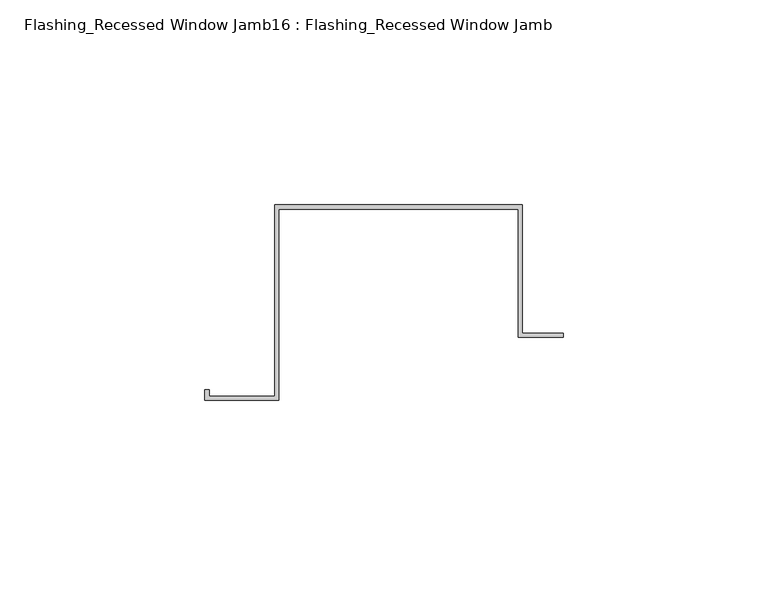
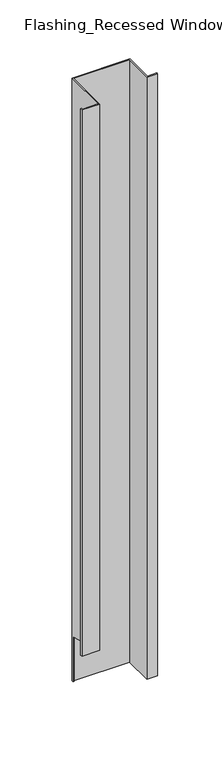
"""IFC4 building model written with IfcOpenShell, lengths in millimetres: proxy geometry, Flashing_Recessed Window Jamb16 : Flashing_Recessed Window Jamb."""

from ifc_helpers import new_model, si_unit, origin, place, context, project, spatial, faceted_brep, source, transform, mapped, element, save


def flashing_recessed_window_jamb16_flashing_recessed_window_d55ca905(model_context):
    return source(origin(), model_context, "Body", "Brep", [
        faceted_brep([(11998.8902201, -20640.9457855, -277.6721404), (11998.8902201, -20609.6136752, -277.6721404), (11938.5223206, -20609.6136752, -277.6721404), (11938.5223206, -20656.2991572, -277.6721404), (11922.4910706, -20656.2991572, -277.6721404), (11922.4910706, -20654.7546787, -277.6721404), (11921.4910706, -20654.7546787, -277.6721404), (11921.4910706, -20657.2991572, -277.6721404), (11939.5223206, -20657.2991572, -277.6721404), (11939.5223206, -20610.6136752, -277.6721404), (11997.8902201, -20610.6136752, -277.6721404), (11997.8902201, -20641.9457855, -277.6721404), (12008.8902201, -20641.9457855, -277.6721404), (12008.8902201, -20640.9457855, -277.6721404), (11997.8902201, -20641.9457855, -938.2016371), (11997.8902201, -20610.6136752, -938.2016371), (11939.5223206, -20610.6136752, -938.2016371), (11939.5223206, -20611.5455269, -938.2016371), (11938.5223206, -20611.5455269, -938.2016371), (11938.5223206, -20609.6136752, -938.2016371), (11998.8902201, -20609.6136752, -938.2016371), (11998.8902201, -20640.9457855, -938.2016371), (12008.8902201, -20640.9457855, -938.2016371), (12008.8902201, -20641.9457855, -938.2016371), (11938.5223206, -20611.5455269, -888.7682442), (11938.5223206, -20656.2991572, -876.7765451), (11922.4910706, -20656.2991572, -876.7765451), (11922.4910706, -20654.7546787, -877.1903869), (11921.4910706, -20654.7546787, -877.1903869), (11921.4910706, -20657.2991572, -876.5085959), (11939.5223206, -20657.2991572, -876.5085959), (11939.5223206, -20611.5455269, -888.7682442)], [[[0, 1, 2, 3, 4, 5, 6, 7, 8, 9, 10, 11, 12, 13]], [[14, 15, 16, 17, 18, 19, 20, 21, 22, 23]], [[1, 0, 21, 20]], [[2, 1, 20, 19]], [[3, 2, 19, 18, 24, 25]], [[4, 3, 25, 26]], [[5, 4, 26, 27]], [[6, 5, 27, 28]], [[7, 6, 28, 29]], [[8, 7, 29, 30]], [[9, 8, 30, 31, 17, 16]], [[10, 9, 16, 15]], [[11, 10, 15, 14]], [[12, 11, 14, 23]], [[13, 12, 23, 22]], [[0, 13, 22, 21]], [[24, 31, 30, 29, 28, 27, 26, 25]], [[31, 24, 18, 17]]]),
    ])


if __name__ == "__main__":
    model = new_model("IFC4")
    model_context = context("Model", 3, world=origin())
    ifc_project = project(units=[si_unit("LENGTHUNIT", "METRE", prefix="MILLI")], contexts=[model_context])
    site = spatial("IfcSite", under=ifc_project)
    building = spatial("IfcBuilding", under=site)
    placement = place(None, origin())
    flashing_recessed_window_jamb16_flashing_recessed_window_shape = flashing_recessed_window_jamb16_flashing_recessed_window_d55ca905(model_context)
    element("IfcBuildingElementProxy", 1, Name="Flashing_Recessed Window Jamb16 : Flashing_Recessed Window Jamb", ObjectType="Flashing_Recessed Window Jamb16 : Flashing_Recessed Window Jamb", at=placement, inside=building, context=model_context, shape_type="MappedRepresentation", body=[
        mapped(flashing_recessed_window_jamb16_flashing_recessed_window_shape, transform((0.0, 0.0, 0.0), x_axis=(1.0, 0.0, 0.0), y_axis=(0.0, 1.0, 0.0), z_axis=(0.0, 0.0, 1.0))),
    ])
    save(model, "model.ifc")
